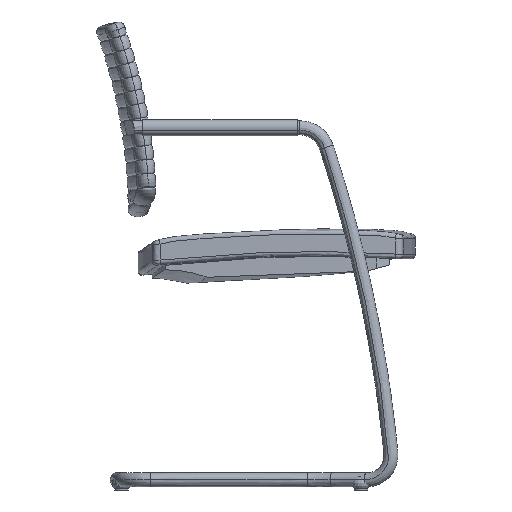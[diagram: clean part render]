
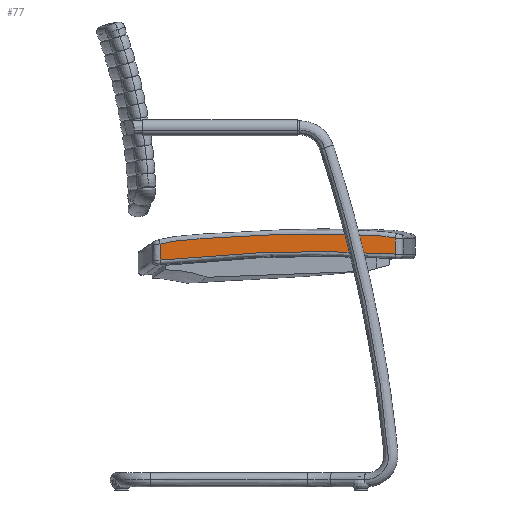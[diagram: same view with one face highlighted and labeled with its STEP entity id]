
A CAD part, left-side view. The second image highlights one B-rep face of the part: STEP entity #77.
In plain terms, the highlighted free-form (B-spline) face has degree [1, 2] with [2, 3] control points.
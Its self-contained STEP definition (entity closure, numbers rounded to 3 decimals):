
#77=ADVANCED_FACE('',(#321),#3189,.T.);
#321=FACE_OUTER_BOUND('',#565,.T.);
#565=EDGE_LOOP('',(#933,#934,#935,#936));
#933=ORIENTED_EDGE('',*,*,#1857,.T.);
#934=ORIENTED_EDGE('',*,*,#1872,.T.);
#935=ORIENTED_EDGE('',*,*,#1856,.T.);
#936=ORIENTED_EDGE('',*,*,#1875,.F.);
#1856=EDGE_CURVE('',#2928,#2926,#2540,.T.);
#1857=EDGE_CURVE('',#2925,#2927,#2541,.T.);
#1872=EDGE_CURVE('',#2927,#2928,#2556,.T.);
#1875=EDGE_CURVE('',#2925,#2926,#2559,.T.);
#2540=B_SPLINE_CURVE_WITH_KNOTS('',1,(#6191,#6192),.UNSPECIFIED.,.F.,.F.,
(2,2),(8.842,37.384),.UNSPECIFIED.);
#2541=B_SPLINE_CURVE_WITH_KNOTS('',1,(#6193,#6194),.UNSPECIFIED.,.F.,.F.,
(2,2),(5.391,33.778),.UNSPECIFIED.);
#2556=B_SPLINE_CURVE_WITH_KNOTS('',3,(#6277,#6278,#6279,#6280),
 .UNSPECIFIED.,.F.,.F.,(4,4),(0.76,418.985),
 .UNSPECIFIED.);
#2559=B_SPLINE_CURVE_WITH_KNOTS('',3,(#6308,#6309,#6310,#6311,#6312,#6313,
#6314,#6315,#6316,#6317,#6318,#6319,#6320,#6321,#6322,#6323,#6324,#6325,
#6326,#6327,#6328),.UNSPECIFIED.,.F.,.F.,(4,1,1,1,1,1,1,1,1,1,1,1,1,1,1,
1,1,1,4),(-1.884,9.079,17.303,25.526,
33.75,41.973,82.911,123.848,205.723,
289.217,330.964,372.71,380.881,389.052,
397.223,405.394,411.117,416.839,417.021),
 .UNSPECIFIED.);
#2925=VERTEX_POINT('',#5827);
#2926=VERTEX_POINT('',#5828);
#2927=VERTEX_POINT('',#5829);
#2928=VERTEX_POINT('',#5830);
#3189=(
BOUNDED_SURFACE()
B_SPLINE_SURFACE(1,2,((#4911,#4912,#4913),(#4914,#4915,#4916)),
 .UNSPECIFIED.,.F.,.F.,.F.)
B_SPLINE_SURFACE_WITH_KNOTS((2,2),(3,3),(0.,178.487),(0.,440.719),
 .UNSPECIFIED.)
GEOMETRIC_REPRESENTATION_ITEM()
RATIONAL_B_SPLINE_SURFACE(((1.,0.996,1.),(1.,0.996,
1.)))
REPRESENTATION_ITEM('')
SURFACE()
);
#4911=CARTESIAN_POINT('',(-230.,180.,539.244));
#4912=CARTESIAN_POINT('',(-230.,-39.545,564.275));
#4913=CARTESIAN_POINT('',(-230.,-260.,549.244));
#4914=CARTESIAN_POINT('',(-230.,180.,360.756));
#4915=CARTESIAN_POINT('',(-230.,-39.545,385.787));
#4916=CARTESIAN_POINT('',(-230.,-260.,370.756));
#5827=CARTESIAN_POINT('',(-230.,168.992,436.608));
#5828=CARTESIAN_POINT('',(-230.,-248.586,447.384));
#5829=CARTESIAN_POINT('',(-230.,168.992,408.222));
#5830=CARTESIAN_POINT('',(-230.,-248.586,418.842));
#6191=CARTESIAN_POINT('',(-230.,-248.586,418.842));
#6192=CARTESIAN_POINT('',(-230.,-248.586,447.384));
#6193=CARTESIAN_POINT('',(-230.,168.992,436.608));
#6194=CARTESIAN_POINT('',(-230.,168.992,408.222));
#6277=CARTESIAN_POINT('',(-230.,168.992,408.222));
#6278=CARTESIAN_POINT('',(-230.,30.444,423.687));
#6279=CARTESIAN_POINT('',(-230.,-109.431,427.244));
#6280=CARTESIAN_POINT('',(-230.,-248.586,418.842));
#6308=CARTESIAN_POINT('',(-230.,168.992,436.608));
#6309=CARTESIAN_POINT('',(-230.,165.487,437.642));
#6310=CARTESIAN_POINT('',(-230.,159.272,439.174));
#6311=CARTESIAN_POINT('',(-230.,150.281,440.809));
#6312=CARTESIAN_POINT('',(-230.,142.136,441.952));
#6313=CARTESIAN_POINT('',(-230.,133.963,442.866));
#6314=CARTESIAN_POINT('',(-230.,114.922,444.695));
#6315=CARTESIAN_POINT('',(-230.,84.998,447.263));
#6316=CARTESIAN_POINT('',(-230.,30.542,451.006));
#6317=CARTESIAN_POINT('',(-230.,-38.173,453.975));
#6318=CARTESIAN_POINT('',(-230.,-107.219,454.59));
#6319=CARTESIAN_POINT('',(-230.,-162.875,453.64));
#6320=CARTESIAN_POINT('',(-230.,-193.413,452.59));
#6321=CARTESIAN_POINT('',(-230.,-212.757,451.727));
#6322=CARTESIAN_POINT('',(-230.,-220.915,451.258));
#6323=CARTESIAN_POINT('',(-230.,-229.058,450.577));
#6324=CARTESIAN_POINT('',(-230.,-236.361,449.691));
#6325=CARTESIAN_POINT('',(-230.,-242.814,448.628));
#6326=CARTESIAN_POINT('',(-230.,-246.61,447.842));
#6327=CARTESIAN_POINT('',(-230.,-248.527,447.397));
#6328=CARTESIAN_POINT('',(-230.,-248.586,447.384));
